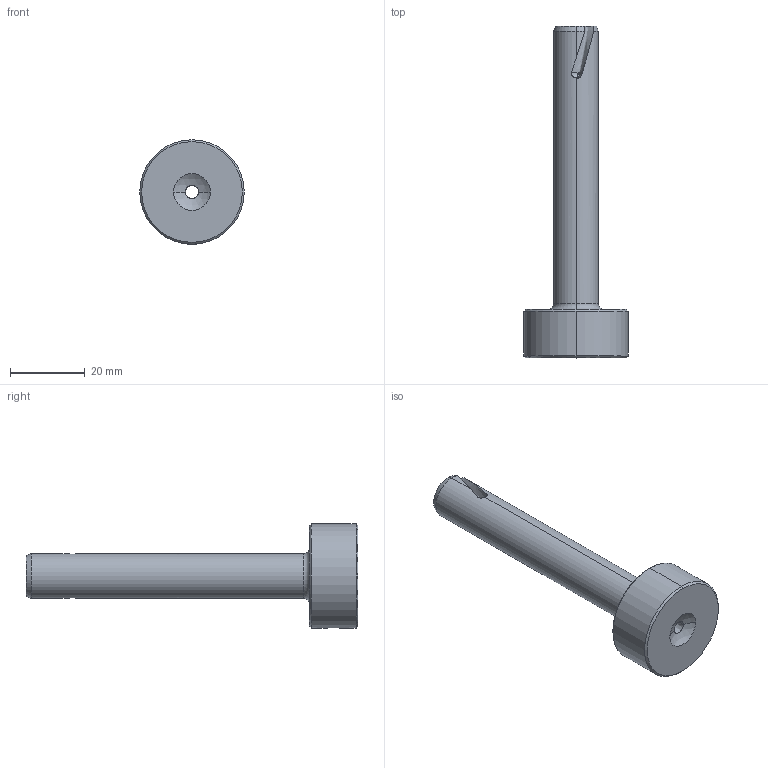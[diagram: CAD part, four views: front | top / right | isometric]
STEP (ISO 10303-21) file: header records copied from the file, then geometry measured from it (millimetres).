
FILE_DESCRIPTION (( 'STEP AP203' ), '1' );
FILE_NAME ('SB12.76.2.STEP', '2019-04-12T15:22:32', ( '' ), ( '' ), 'SwSTEP 2.0', 'SolidWorks 2018', '' );
FILE_SCHEMA (( 'CONFIG_CONTROL_DESIGN' ));
Length unit declared in the file: millimetre
Products named in the file (1): SB12.76.2
Bounding box: 28 x 89 x 28 mm (x, y, z)
Volume: 14922 mm3; surface area: 6534.3 mm2
Topology: 1 solids, 1 shells, 49 faces, 133 edges, 80 vertices
Faces by surface type: bspline 18, cone 12, cylinder 10, plane 5, sphere 2, torus 2
Entity records: 3878 total; most frequent: CARTESIAN_POINT 2785, ORIENTED_EDGE 250, DIRECTION 149, EDGE_CURVE 125, VERTEX_POINT 80, B_SPLINE_CURVE_WITH_KNOTS 72, AXIS2_PLACEMENT_3D 64, EDGE_LOOP 53
